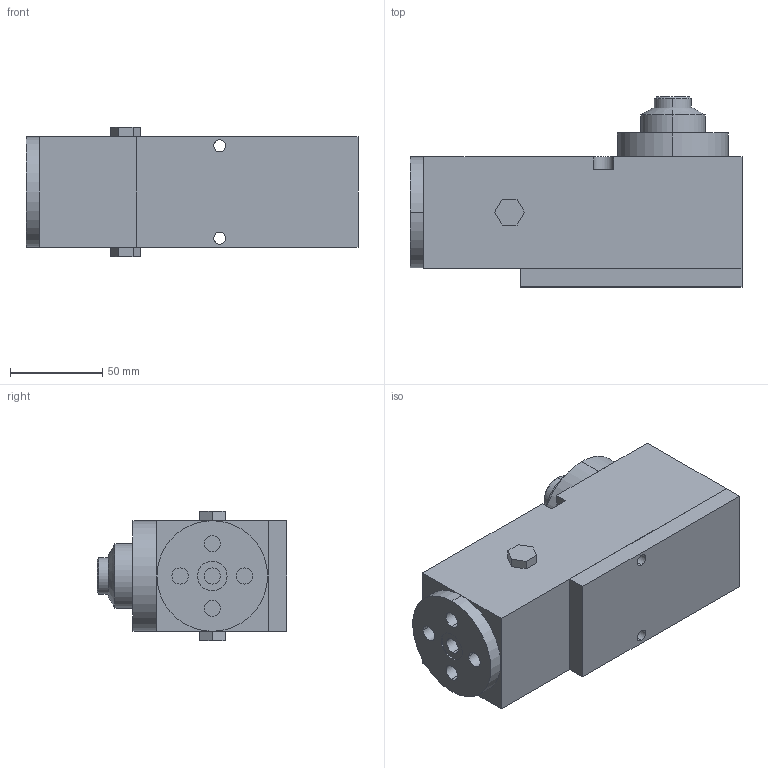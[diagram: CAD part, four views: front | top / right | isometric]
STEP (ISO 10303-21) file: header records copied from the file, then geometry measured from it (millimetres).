
FILE_DESCRIPTION (( 'STEP AP203' ), '1' );
FILE_NAME ('J21302.STEP', '2022-07-13T09:33:47', ( '' ), ( '' ), 'SwSTEP 2.0', 'SolidWorks 2016', '' );
FILE_SCHEMA (( 'CONFIG_CONTROL_DESIGN' ));
Length unit declared in the file: millimetre
Products named in the file (1): J21302
Bounding box: 180 x 103 x 70 mm (x, y, z)
Volume: 747796.8 mm3; surface area: 83576.5 mm2
Topology: 2 solids, 4 shells, 109 faces, 239 edges, 155 vertices
Faces by surface type: plane 56, cylinder 49, cone 4
Entity records: 3099 total; most frequent: DIRECTION 562, CARTESIAN_POINT 504, ORIENTED_EDGE 478, EDGE_CURVE 239, AXIS2_PLACEMENT_3D 213, VERTEX_POINT 155, LINE 136, VECTOR 136
